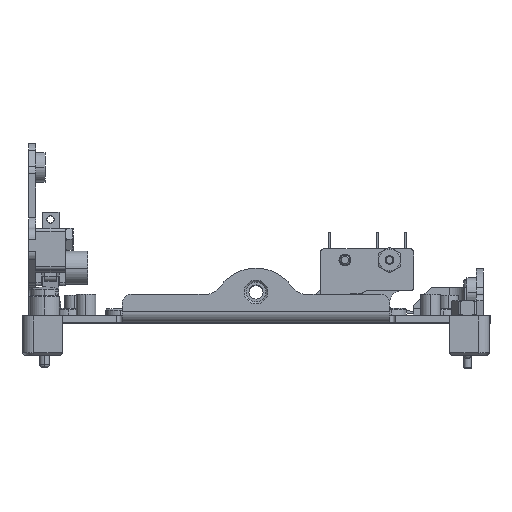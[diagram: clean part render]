
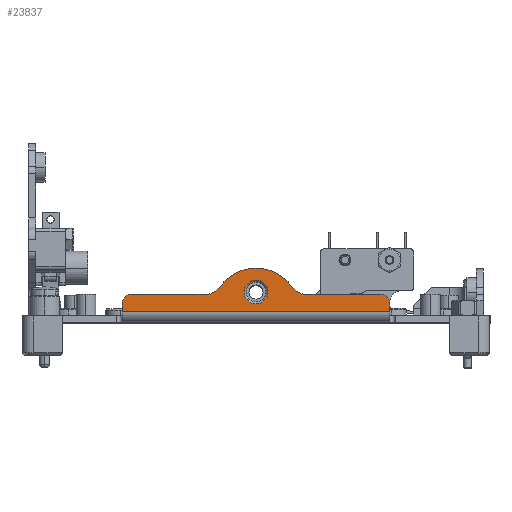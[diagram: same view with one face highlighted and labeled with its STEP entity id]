
A CAD part, top view. The second image highlights one B-rep face of the part: STEP entity #23837.
In plain terms, the highlighted planar face has unit normal (0, 0, 1).
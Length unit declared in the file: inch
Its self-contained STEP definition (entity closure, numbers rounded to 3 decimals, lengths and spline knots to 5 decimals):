
#401 = DIRECTION ( 'NONE',  ( -1., 0., 0. ) ) ;
#1352 = DIRECTION ( 'NONE',  ( -1., 0., 0. ) ) ;
#1521 = VERTEX_POINT ( 'NONE', #17889 ) ;
#1656 = DIRECTION ( 'NONE',  ( 0., 0., -1. ) ) ;
#2106 = VECTOR ( 'NONE', #20153, 39.37008 ) ;
#2156 = ORIENTED_EDGE ( 'NONE', *, *, #40051, .T. ) ;
#2247 = EDGE_CURVE ( 'NONE', #38887, #24988, #14582, .T. ) ;
#3495 = CARTESIAN_POINT ( 'NONE',  ( -1.1261, 0.23622, 1.9135 ) ) ;
#3988 = CARTESIAN_POINT ( 'NONE',  ( 0.42028, 0.23622, 1.9135 ) ) ;
#4728 = VERTEX_POINT ( 'NONE', #33315 ) ;
#4939 = EDGE_LOOP ( 'NONE', ( #30993, #30033, #10949, #52121, #24892, #55495, #8883, #28417, #49381, #37482 ) ) ;
#5814 = EDGE_CURVE ( 'NONE', #16543, #39321, #28567, .T. ) ;
#6798 = DIRECTION ( 'NONE',  ( 0., 0., 1. ) ) ;
#7700 = EDGE_CURVE ( 'NONE', #1521, #45625, #55870, .T. ) ;
#8883 = ORIENTED_EDGE ( 'NONE', *, *, #35502, .T. ) ;
#10359 = VERTEX_POINT ( 'NONE', #45880 ) ;
#10949 = ORIENTED_EDGE ( 'NONE', *, *, #46784, .T. ) ;
#11396 = DIRECTION ( 'NONE',  ( 0., 0., 1. ) ) ;
#12724 = AXIS2_PLACEMENT_3D ( 'NONE', #54237, #27865, #1352 ) ;
#13209 = CARTESIAN_POINT ( 'NONE',  ( -1.1261, 0.15622, 1.9135 ) ) ;
#13345 = CARTESIAN_POINT ( 'NONE',  ( -1.1261, 0.09, 1.9135 ) ) ;
#14133 = CARTESIAN_POINT ( 'NONE',  ( 0.30791, 0.29496, 1.9135 ) ) ;
#14582 = CIRCLE ( 'NONE', #20897, 0.13685 ) ;
#16477 = CARTESIAN_POINT ( 'NONE',  ( 0., 0.08091, 1.9135 ) ) ;
#16543 = VERTEX_POINT ( 'NONE', #13209 ) ;
#16676 = EDGE_CURVE ( 'NONE', #4728, #35868, #55045, .T. ) ;
#16726 = CARTESIAN_POINT ( 'NONE',  ( 0., 0.25591, 1.9135 ) ) ;
#16876 = CIRCLE ( 'NONE', #35519, 0.08 ) ;
#17495 = CARTESIAN_POINT ( 'NONE',  ( -1.9135, 0., 1.9135 ) ) ;
#17889 = CARTESIAN_POINT ( 'NONE',  ( 1.0461, 0.23622, 1.9135 ) ) ;
#18940 = VERTEX_POINT ( 'NONE', #14133 ) ;
#20143 = EDGE_CURVE ( 'NONE', #38887, #34775, #28772, .T. ) ;
#20153 = DIRECTION ( 'NONE',  ( -1., 0., 0. ) ) ;
#20793 = EDGE_CURVE ( 'NONE', #24988, #18940, #29333, .T. ) ;
#20897 = AXIS2_PLACEMENT_3D ( 'NONE', #33335, #6798, #37748 ) ;
#20961 = DIRECTION ( 'NONE',  ( -1., 0., 0. ) ) ;
#21087 = CARTESIAN_POINT ( 'NONE',  ( 0.42028, 0.23622, 1.9135 ) ) ;
#21205 = DIRECTION ( 'NONE',  ( -1., 0., 0. ) ) ;
#22006 = DIRECTION ( 'NONE',  ( -1., 0., 0. ) ) ;
#23127 = DIRECTION ( 'NONE',  ( 0., 1., 0. ) ) ;
#23550 = CIRCLE ( 'NONE', #12724, 0.13685 ) ;
#23837 = ADVANCED_FACE ( 'NONE', ( #36287, #46695 ), #26214, .T. ) ;
#24242 = ORIENTED_EDGE ( 'NONE', *, *, #57248, .T. ) ;
#24892 = ORIENTED_EDGE ( 'NONE', *, *, #25887, .F. ) ;
#24988 = VERTEX_POINT ( 'NONE', #29876 ) ;
#25887 = EDGE_CURVE ( 'NONE', #4728, #39321, #47811, .T. ) ;
#26214 = PLANE ( 'NONE',  #33747 ) ;
#26946 = DIRECTION ( 'NONE',  ( 0., 0., 1. ) ) ;
#27187 = VECTOR ( 'NONE', #34483, 39.37008 ) ;
#27569 = CARTESIAN_POINT ( 'NONE',  ( -0.42028, 0.23622, 1.9135 ) ) ;
#27865 = DIRECTION ( 'NONE',  ( 0., 0., 1. ) ) ;
#28113 = CARTESIAN_POINT ( 'NONE',  ( -1.9135, 0.23622, 1.9135 ) ) ;
#28188 = CARTESIAN_POINT ( 'NONE',  ( 0., 0.25591, 1.9135 ) ) ;
#28417 = ORIENTED_EDGE ( 'NONE', *, *, #7700, .T. ) ;
#28567 = LINE ( 'NONE', #3495, #27187 ) ;
#28772 = LINE ( 'NONE', #28113, #37730 ) ;
#29333 = CIRCLE ( 'NONE', #54207, 0.375 ) ;
#29876 = CARTESIAN_POINT ( 'NONE',  ( -0.30791, 0.29496, 1.9135 ) ) ;
#30033 = ORIENTED_EDGE ( 'NONE', *, *, #20143, .T. ) ;
#30993 = ORIENTED_EDGE ( 'NONE', *, *, #2247, .F. ) ;
#32228 = EDGE_CURVE ( 'NONE', #18940, #45625, #23550, .T. ) ;
#32633 = DIRECTION ( 'NONE',  ( -1., 0., 0. ) ) ;
#33315 = CARTESIAN_POINT ( 'NONE',  ( 1.1261, 0.09, 1.9135 ) ) ;
#33335 = CARTESIAN_POINT ( 'NONE',  ( -0.42028, 0.37307, 1.9135 ) ) ;
#33747 = AXIS2_PLACEMENT_3D ( 'NONE', #17495, #48409, #22006 ) ;
#33851 = VECTOR ( 'NONE', #34949, 39.37008 ) ;
#34483 = DIRECTION ( 'NONE',  ( 0., -1., 0. ) ) ;
#34775 = VERTEX_POINT ( 'NONE', #47893 ) ;
#34812 = CARTESIAN_POINT ( 'NONE',  ( 1.1261, 0.15622, 1.9135 ) ) ;
#34949 = DIRECTION ( 'NONE',  ( -1., 0., 0. ) ) ;
#35502 = EDGE_CURVE ( 'NONE', #35868, #1521, #16876, .T. ) ;
#35519 = AXIS2_PLACEMENT_3D ( 'NONE', #53309, #26946, #401 ) ;
#35868 = VERTEX_POINT ( 'NONE', #34812 ) ;
#36134 = AXIS2_PLACEMENT_3D ( 'NONE', #37872, #11396, #42355 ) ;
#36287 = FACE_BOUND ( 'NONE', #37118, .T. ) ;
#37118 = EDGE_LOOP ( 'NONE', ( #24242, #2156 ) ) ;
#37482 = ORIENTED_EDGE ( 'NONE', *, *, #20793, .F. ) ;
#37587 = VERTEX_POINT ( 'NONE', #43368 ) ;
#37730 = VECTOR ( 'NONE', #54509, 39.37008 ) ;
#37748 = DIRECTION ( 'NONE',  ( -1., 0., 0. ) ) ;
#37872 = CARTESIAN_POINT ( 'NONE',  ( -1.0461, 0.15622, 1.9135 ) ) ;
#38887 = VERTEX_POINT ( 'NONE', #27569 ) ;
#39321 = VERTEX_POINT ( 'NONE', #13345 ) ;
#40051 = EDGE_CURVE ( 'NONE', #37587, #10359, #46084, .T. ) ;
#42355 = DIRECTION ( 'NONE',  ( -1., 0., 0. ) ) ;
#43368 = CARTESIAN_POINT ( 'NONE',  ( 0.09866, 0.25591, 1.9135 ) ) ;
#43412 = VECTOR ( 'NONE', #23127, 39.37008 ) ;
#45151 = CARTESIAN_POINT ( 'NONE',  ( 1.1261, 0., 1.9135 ) ) ;
#45625 = VERTEX_POINT ( 'NONE', #21087 ) ;
#45880 = CARTESIAN_POINT ( 'NONE',  ( -0.09866, 0.25591, 1.9135 ) ) ;
#46084 = CIRCLE ( 'NONE', #56734, 0.09866 ) ;
#46310 = CIRCLE ( 'NONE', #36134, 0.08 ) ;
#46695 = FACE_OUTER_BOUND ( 'NONE', #4939, .T. ) ;
#46784 = EDGE_CURVE ( 'NONE', #34775, #16543, #46310, .T. ) ;
#47392 = DIRECTION ( 'NONE',  ( 0., 0., -1. ) ) ;
#47649 = DIRECTION ( 'NONE',  ( 0., 0., -1. ) ) ;
#47811 = LINE ( 'NONE', #50951, #2106 ) ;
#47893 = CARTESIAN_POINT ( 'NONE',  ( -1.0461, 0.23622, 1.9135 ) ) ;
#48090 = CIRCLE ( 'NONE', #51792, 0.09866 ) ;
#48409 = DIRECTION ( 'NONE',  ( 0., 0., 1. ) ) ;
#49381 = ORIENTED_EDGE ( 'NONE', *, *, #32228, .F. ) ;
#50951 = CARTESIAN_POINT ( 'NONE',  ( -1.1261, 0.09, 1.9135 ) ) ;
#51792 = AXIS2_PLACEMENT_3D ( 'NONE', #16726, #47649, #21205 ) ;
#52121 = ORIENTED_EDGE ( 'NONE', *, *, #5814, .T. ) ;
#53309 = CARTESIAN_POINT ( 'NONE',  ( 1.0461, 0.15622, 1.9135 ) ) ;
#54207 = AXIS2_PLACEMENT_3D ( 'NONE', #16477, #47392, #20961 ) ;
#54237 = CARTESIAN_POINT ( 'NONE',  ( 0.42028, 0.37307, 1.9135 ) ) ;
#54509 = DIRECTION ( 'NONE',  ( -1., 0., 0. ) ) ;
#55045 = LINE ( 'NONE', #45151, #43412 ) ;
#55495 = ORIENTED_EDGE ( 'NONE', *, *, #16676, .T. ) ;
#55870 = LINE ( 'NONE', #3988, #33851 ) ;
#56734 = AXIS2_PLACEMENT_3D ( 'NONE', #28188, #1656, #32633 ) ;
#57248 = EDGE_CURVE ( 'NONE', #10359, #37587, #48090, .T. ) ;
